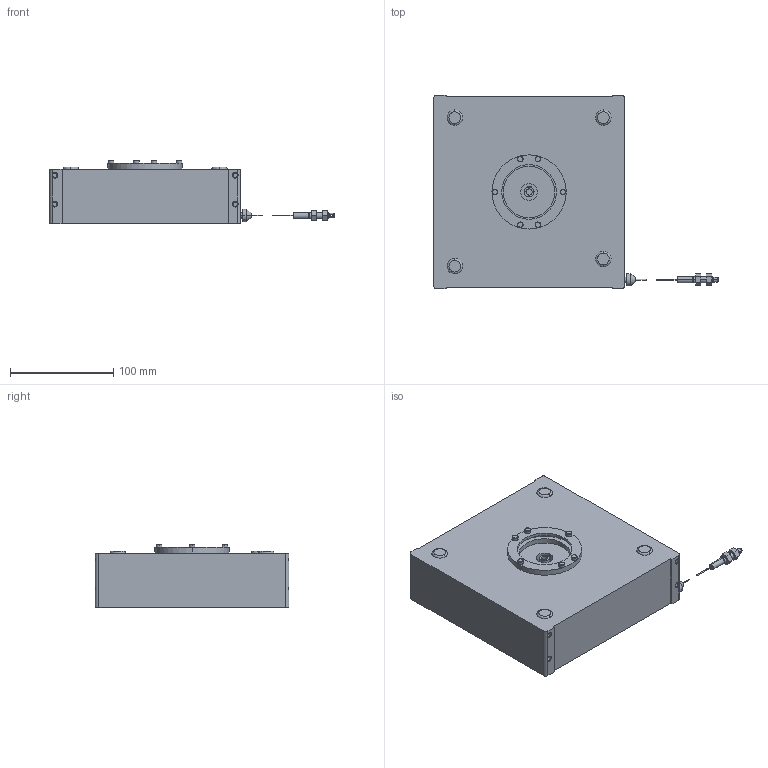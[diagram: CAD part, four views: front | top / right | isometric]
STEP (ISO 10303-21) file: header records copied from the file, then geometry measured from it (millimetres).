
FILE_DESCRIPTION (( 'STEP AP214' ), '1' );
FILE_NAME ('Zusammenstellung_SG150.STEP', '2015-01-28T14:46:20', ( '' ), ( '' ), 'SwSTEP 2.0', 'SolidWorks 2013', '' );
FILE_SCHEMA (( 'AUTOMOTIVE_DESIGN' ));
Length unit declared in the file: millimetre
Products named in the file (6): SIKO_SG150_005~0; Zusammenstellung_SG150; SIKO_SG150_001~0; SIKO_SG150_002~0; SIKO_SG150_003~0; SIKO_SG150_004~0
Assembly tree (6 placements, depth 2):
  Zusammenstellung_SG150
    SIKO_SG150_001~0
    SIKO_SG150_002~0
    SIKO_SG150_003~0
    SIKO_SG150_004~0
    SIKO_SG150_005~0  x2
Bounding box: 276 x 188 x 61.6 mm (x, y, z)
Volume: 1815760 mm3; surface area: 118592.4 mm2
Topology: 6 solids, 6 shells, 210 faces, 477 edges, 306 vertices
Faces by surface type: plane 87, cylinder 77, cone 26, torus 20
Entity records: 6349 total; most frequent: CARTESIAN_POINT 1216, DIRECTION 1085, ORIENTED_EDGE 906, EDGE_CURVE 453, AXIS2_PLACEMENT_3D 437, VERTEX_POINT 290, EDGE_LOOP 231, CIRCLE 228
